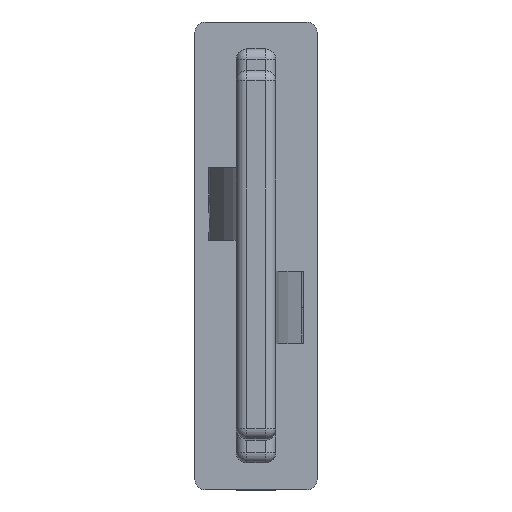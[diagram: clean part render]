
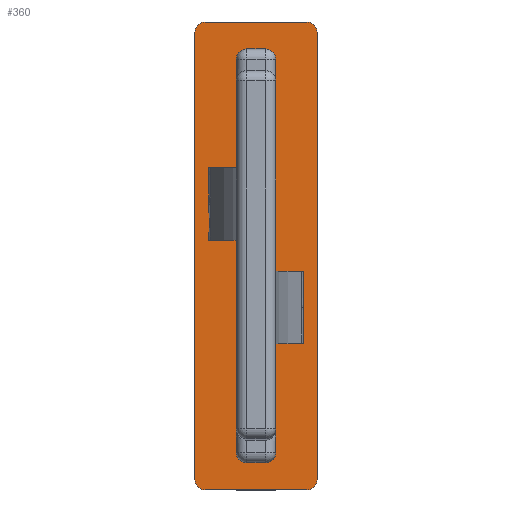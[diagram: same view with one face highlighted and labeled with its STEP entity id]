
A CAD part, top view. The second image highlights one B-rep face of the part: STEP entity #360.
In plain terms, the highlighted planar face has unit normal (0, 0, 1).
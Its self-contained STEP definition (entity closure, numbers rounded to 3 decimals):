
#60=CARTESIAN_POINT('',(-2.,15.056,0.9));
#61=VERTEX_POINT('',#60);
#68=CARTESIAN_POINT('',(-1.5,15.556,0.9));
#69=VERTEX_POINT('',#68);
#70=CARTESIAN_POINT('',(-1.5,15.056,0.9));
#71=DIRECTION('',(0.0,0.0,-1.0));
#72=DIRECTION('',(-0.707,0.707,0.0));
#73=AXIS2_PLACEMENT_3D('',#70,#71,#72);
#74=CIRCLE('',#73,0.5);
#75=EDGE_CURVE('',#61,#69,#74,.T.);
#100=CARTESIAN_POINT('',(-2.,-6.556,0.9));
#101=VERTEX_POINT('',#100);
#108=CARTESIAN_POINT('',(-2.,15.056,0.9));
#109=DIRECTION('',(0.0,-1.0,0.0));
#110=VECTOR('',#109,21.612);
#111=LINE('',#108,#110);
#112=EDGE_CURVE('',#61,#101,#111,.T.);
#216=CARTESIAN_POINT('',(3.9,-6.556,0.9));
#217=VERTEX_POINT('',#216);
#224=CARTESIAN_POINT('',(3.4,-7.056,0.9));
#225=VERTEX_POINT('',#224);
#226=CARTESIAN_POINT('',(3.4,-6.556,0.9));
#227=DIRECTION('',(0.0,0.0,-1.0));
#228=DIRECTION('',(0.707,-0.707,0.0));
#229=AXIS2_PLACEMENT_3D('',#226,#227,#228);
#230=CIRCLE('',#229,0.5);
#231=EDGE_CURVE('',#217,#225,#230,.T.);
#242=CARTESIAN_POINT('',(-2.1,13.25,0.9));
#243=DIRECTION('',(0.0,0.0,1.0));
#244=DIRECTION('',(-1.0,0.0,0.0));
#245=AXIS2_PLACEMENT_3D('',#242,#243,#244);
#246=PLANE('',#245);
#247=ORIENTED_EDGE('',*,*,#75,.F.);
#248=ORIENTED_EDGE('',*,*,#112,.T.);
#249=CARTESIAN_POINT('',(-1.5,-7.056,0.9));
#250=VERTEX_POINT('',#249);
#251=CARTESIAN_POINT('',(-1.5,-6.556,0.9));
#252=DIRECTION('',(0.0,0.0,-1.0));
#253=DIRECTION('',(-0.707,-0.707,0.0));
#254=AXIS2_PLACEMENT_3D('',#251,#252,#253);
#255=CIRCLE('',#254,0.5);
#256=EDGE_CURVE('',#250,#101,#255,.T.);
#257=ORIENTED_EDGE('',*,*,#256,.F.);
#258=CARTESIAN_POINT('',(-1.5,-7.056,0.9));
#259=DIRECTION('',(1.0,0.0,0.0));
#260=VECTOR('',#259,4.9);
#261=LINE('',#258,#260);
#262=EDGE_CURVE('',#250,#225,#261,.T.);
#263=ORIENTED_EDGE('',*,*,#262,.T.);
#264=ORIENTED_EDGE('',*,*,#231,.F.);
#265=CARTESIAN_POINT('',(3.9,15.056,0.9));
#266=VERTEX_POINT('',#265);
#267=CARTESIAN_POINT('',(3.9,15.056,0.9));
#268=DIRECTION('',(0.0,-1.0,0.0));
#269=VECTOR('',#268,21.612);
#270=LINE('',#267,#269);
#271=EDGE_CURVE('',#266,#217,#270,.T.);
#272=ORIENTED_EDGE('',*,*,#271,.F.);
#273=CARTESIAN_POINT('',(3.4,15.556,0.9));
#274=VERTEX_POINT('',#273);
#275=CARTESIAN_POINT('',(3.4,15.056,0.9));
#276=DIRECTION('',(0.0,0.0,-1.0));
#277=DIRECTION('',(0.707,0.707,0.0));
#278=AXIS2_PLACEMENT_3D('',#275,#276,#277);
#279=CIRCLE('',#278,0.5);
#280=EDGE_CURVE('',#274,#266,#279,.T.);
#281=ORIENTED_EDGE('',*,*,#280,.F.);
#282=CARTESIAN_POINT('',(-1.5,15.556,0.9));
#283=DIRECTION('',(1.0,0.0,0.0));
#284=VECTOR('',#283,4.9);
#285=LINE('',#282,#284);
#286=EDGE_CURVE('',#69,#274,#285,.T.);
#287=ORIENTED_EDGE('',*,*,#286,.F.);
#288=EDGE_LOOP('',(#247,#248,#257,#263,#264,#272,#281,#287));
#289=FACE_OUTER_BOUND('',#288,.T.);
#290=CARTESIAN_POINT('',(0.,13.752,0.9));
#291=VERTEX_POINT('',#290);
#292=CARTESIAN_POINT('',(0.,-5.252,0.9));
#293=VERTEX_POINT('',#292);
#294=CARTESIAN_POINT('',(0.,13.752,0.9));
#295=DIRECTION('',(0.0,-1.0,0.0));
#296=VECTOR('',#295,19.004);
#297=LINE('',#294,#296);
#298=EDGE_CURVE('',#291,#293,#297,.T.);
#299=ORIENTED_EDGE('',*,*,#298,.F.);
#300=CARTESIAN_POINT('',(0.5,14.252,0.9));
#301=VERTEX_POINT('',#300);
#302=CARTESIAN_POINT('',(0.5,13.752,0.9));
#303=DIRECTION('',(0.0,0.0,-1.0));
#304=DIRECTION('',(-0.707,0.707,0.0));
#305=AXIS2_PLACEMENT_3D('',#302,#303,#304);
#306=CIRCLE('',#305,0.5);
#307=EDGE_CURVE('',#301,#291,#306,.F.);
#308=ORIENTED_EDGE('',*,*,#307,.F.);
#309=CARTESIAN_POINT('',(1.4,14.252,0.9));
#310=VERTEX_POINT('',#309);
#311=CARTESIAN_POINT('',(0.5,14.252,0.9));
#312=DIRECTION('',(1.0,0.0,0.0));
#313=VECTOR('',#312,0.9);
#314=LINE('',#311,#313);
#315=EDGE_CURVE('',#301,#310,#314,.T.);
#316=ORIENTED_EDGE('',*,*,#315,.T.);
#317=CARTESIAN_POINT('',(1.9,13.752,0.9));
#318=VERTEX_POINT('',#317);
#319=CARTESIAN_POINT('',(1.4,13.752,0.9));
#320=DIRECTION('',(0.0,0.0,-1.0));
#321=DIRECTION('',(0.707,0.707,0.0));
#322=AXIS2_PLACEMENT_3D('',#319,#320,#321);
#323=CIRCLE('',#322,0.5);
#324=EDGE_CURVE('',#318,#310,#323,.F.);
#325=ORIENTED_EDGE('',*,*,#324,.F.);
#326=CARTESIAN_POINT('',(1.9,-5.252,0.9));
#327=VERTEX_POINT('',#326);
#328=CARTESIAN_POINT('',(1.9,13.752,0.9));
#329=DIRECTION('',(0.0,-1.0,0.0));
#330=VECTOR('',#329,19.004);
#331=LINE('',#328,#330);
#332=EDGE_CURVE('',#318,#327,#331,.T.);
#333=ORIENTED_EDGE('',*,*,#332,.T.);
#334=CARTESIAN_POINT('',(1.4,-5.752,0.9));
#335=VERTEX_POINT('',#334);
#336=CARTESIAN_POINT('',(1.4,-5.252,0.9));
#337=DIRECTION('',(0.0,0.0,-1.0));
#338=DIRECTION('',(0.707,-0.707,0.0));
#339=AXIS2_PLACEMENT_3D('',#336,#337,#338);
#340=CIRCLE('',#339,0.5);
#341=EDGE_CURVE('',#335,#327,#340,.F.);
#342=ORIENTED_EDGE('',*,*,#341,.F.);
#343=CARTESIAN_POINT('',(0.5,-5.752,0.9));
#344=VERTEX_POINT('',#343);
#345=CARTESIAN_POINT('',(0.5,-5.752,0.9));
#346=DIRECTION('',(1.0,0.0,0.0));
#347=VECTOR('',#346,0.9);
#348=LINE('',#345,#347);
#349=EDGE_CURVE('',#344,#335,#348,.T.);
#350=ORIENTED_EDGE('',*,*,#349,.F.);
#351=CARTESIAN_POINT('',(0.5,-5.252,0.9));
#352=DIRECTION('',(0.0,0.0,-1.));
#353=DIRECTION('',(-0.707,-0.707,0.0));
#354=AXIS2_PLACEMENT_3D('',#351,#352,#353);
#355=CIRCLE('',#354,0.5);
#356=EDGE_CURVE('',#293,#344,#355,.F.);
#357=ORIENTED_EDGE('',*,*,#356,.F.);
#358=EDGE_LOOP('',(#299,#308,#316,#325,#333,#342,#350,#357));
#359=FACE_BOUND('',#358,.T.);
#360=ADVANCED_FACE('',(#289,#359),#246,.T.);
